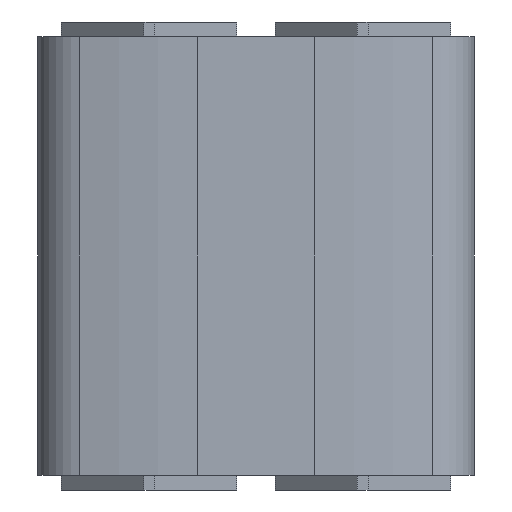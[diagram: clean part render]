
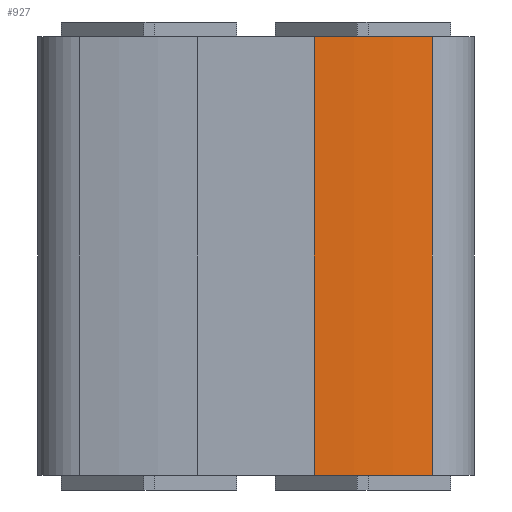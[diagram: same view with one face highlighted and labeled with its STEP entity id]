
A CAD part, front view. The second image highlights one B-rep face of the part: STEP entity #927.
In plain terms, the highlighted cylindrical face has radius 180 mm (diameter 360 mm), a partial arc.
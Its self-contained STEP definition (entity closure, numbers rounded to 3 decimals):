
#867=CARTESIAN_POINT('',(60.174,-37.96,150.0));
#868=VERTEX_POINT('',#867);
#876=CARTESIAN_POINT('',(60.174,-37.96,0.0));
#877=VERTEX_POINT('',#876);
#878=CARTESIAN_POINT('',(60.174,-37.96,0.0));
#879=DIRECTION('',(0.0,0.0,1.0));
#880=VECTOR('',#879,150.0);
#881=LINE('',#878,#880);
#882=EDGE_CURVE('',#877,#868,#881,.T.);
#895=CARTESIAN_POINT('',(20.,137.5,0.0));
#896=DIRECTION('',(0.0,0.0,1.0));
#897=DIRECTION('',(0.0,-1.0,0.0));
#898=AXIS2_PLACEMENT_3D('',#895,#896,#897);
#899=CYLINDRICAL_SURFACE('',#898,180.);
#900=CARTESIAN_POINT('',(20.,-42.5,150.0));
#901=VERTEX_POINT('',#900);
#902=CARTESIAN_POINT('',(20.,137.5,150.0));
#903=DIRECTION('',(0.0,0.0,-1.0));
#904=DIRECTION('',(0.0,-1.0,0.0));
#905=AXIS2_PLACEMENT_3D('',#902,#903,#904);
#906=CIRCLE('',#905,180.);
#907=EDGE_CURVE('',#868,#901,#906,.T.);
#908=ORIENTED_EDGE('',*,*,#907,.T.);
#909=CARTESIAN_POINT('',(20.,-42.5,0.0));
#910=VERTEX_POINT('',#909);
#911=CARTESIAN_POINT('',(20.,-42.5,0.0));
#912=DIRECTION('',(0.0,0.0,1.0));
#913=VECTOR('',#912,150.0);
#914=LINE('',#911,#913);
#915=EDGE_CURVE('',#910,#901,#914,.T.);
#916=ORIENTED_EDGE('',*,*,#915,.F.);
#917=CARTESIAN_POINT('',(20.,137.5,0.0));
#918=DIRECTION('',(0.0,0.0,1.0));
#919=DIRECTION('',(0.0,-1.0,0.0));
#920=AXIS2_PLACEMENT_3D('',#917,#918,#919);
#921=CIRCLE('',#920,180.);
#922=EDGE_CURVE('',#910,#877,#921,.T.);
#923=ORIENTED_EDGE('',*,*,#922,.T.);
#924=ORIENTED_EDGE('',*,*,#882,.T.);
#925=EDGE_LOOP('',(#908,#916,#923,#924));
#926=FACE_OUTER_BOUND('',#925,.T.);
#927=ADVANCED_FACE('',(#926),#899,.T.);
